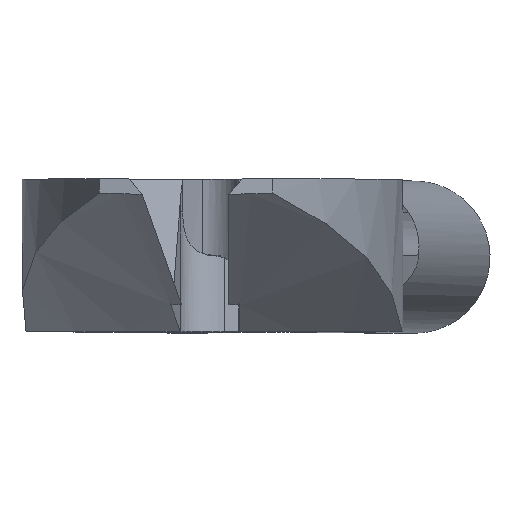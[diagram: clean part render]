
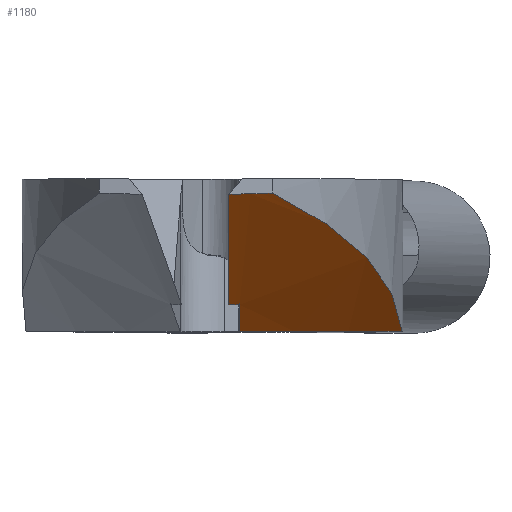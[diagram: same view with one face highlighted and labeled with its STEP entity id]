
A CAD part, top view. The second image highlights one B-rep face of the part: STEP entity #1180.
In plain terms, the highlighted cylindrical face has radius 45 mm (diameter 90 mm), a partial arc.
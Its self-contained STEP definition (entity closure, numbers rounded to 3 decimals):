
#103=CIRCLE('',#1302,45.);
#160=FACE_OUTER_BOUND('',#233,.T.);
#233=EDGE_LOOP('',(#1033,#1034,#1035,#1036,#1037,#1038));
#272=ELLIPSE('',#1304,106.479,45.);
#273=ELLIPSE('',#1305,49.652,45.);
#348=LINE('',#2193,#440);
#357=LINE('',#2227,#449);
#440=VECTOR('',#1602,10.);
#449=VECTOR('',#1627,10.);
#473=B_SPLINE_CURVE_WITH_KNOTS('',3,(#2215,#2216,#2217,#2218,#2219,#2220,
#2221,#2222,#2223,#2224),.UNSPECIFIED.,.F.,.F.,(4,2,2,2,4),(2.865,
2.938,3.521,4.103,4.57),
 .UNSPECIFIED.);
#574=VERTEX_POINT('',#2190);
#575=VERTEX_POINT('',#2192);
#579=VERTEX_POINT('',#2208);
#580=VERTEX_POINT('',#2212);
#581=VERTEX_POINT('',#2214);
#582=VERTEX_POINT('',#2225);
#732=EDGE_CURVE('',#574,#575,#348,.T.);
#742=EDGE_CURVE('',#579,#575,#103,.T.);
#743=EDGE_CURVE('',#580,#574,#272,.T.);
#744=EDGE_CURVE('',#581,#580,#473,.T.);
#745=EDGE_CURVE('',#582,#581,#273,.T.);
#746=EDGE_CURVE('',#579,#582,#357,.T.);
#1033=ORIENTED_EDGE('',*,*,#742,.T.);
#1034=ORIENTED_EDGE('',*,*,#732,.F.);
#1035=ORIENTED_EDGE('',*,*,#743,.F.);
#1036=ORIENTED_EDGE('',*,*,#744,.F.);
#1037=ORIENTED_EDGE('',*,*,#745,.F.);
#1038=ORIENTED_EDGE('',*,*,#746,.F.);
#1123=CYLINDRICAL_SURFACE('',#1303,45.);
#1180=ADVANCED_FACE('',(#160),#1123,.T.);
#1302=AXIS2_PLACEMENT_3D('',#2210,#1619,#1620);
#1303=AXIS2_PLACEMENT_3D('',#2211,#1621,#1622);
#1304=AXIS2_PLACEMENT_3D('',#2213,#1623,#1624);
#1305=AXIS2_PLACEMENT_3D('',#2226,#1625,#1626);
#1602=DIRECTION('',(0.,0.423,0.906));
#1619=DIRECTION('center_axis',(0.,0.423,0.906));
#1620=DIRECTION('ref_axis',(0.,0.906,-0.423));
#1621=DIRECTION('center_axis',(0.,0.423,0.906));
#1622=DIRECTION('ref_axis',(0.,0.906,-0.423));
#1623=DIRECTION('center_axis',(0.,-1.,0.));
#1624=DIRECTION('ref_axis',(0.,0.,-1.));
#1625=DIRECTION('center_axis',(0.,0.,1.));
#1626=DIRECTION('ref_axis',(0.,1.,0.));
#1627=DIRECTION('',(0.,0.423,0.906));
#2190=CARTESIAN_POINT('',(0.5,0.,18.493));
#2192=CARTESIAN_POINT('',(0.5,1.226,21.123));
#2193=CARTESIAN_POINT('',(0.5,0.003,18.499));
#2208=CARTESIAN_POINT('',(0.,1.224,21.125));
#2210=CARTESIAN_POINT('Origin',(0.,42.008,2.107));
#2211=CARTESIAN_POINT('Origin',(0.,40.784,
-0.518));
#2212=CARTESIAN_POINT('',(7.977,0.,16.813));
#2213=CARTESIAN_POINT('Origin',(0.,0.,-87.979));
#2214=CARTESIAN_POINT('',(2.,6.344,32.));
#2215=CARTESIAN_POINT('Ctrl Pts',(2.,6.344,32.));
#2216=CARTESIAN_POINT('Ctrl Pts',(2.155,6.267,31.819));
#2217=CARTESIAN_POINT('Ctrl Pts',(2.308,6.19,31.635));
#2218=CARTESIAN_POINT('Ctrl Pts',(3.666,5.487,29.951));
#2219=CARTESIAN_POINT('Ctrl Pts',(4.71,4.833,28.298));
#2220=CARTESIAN_POINT('Ctrl Pts',(6.375,3.441,24.825));
#2221=CARTESIAN_POINT('Ctrl Pts',(6.999,2.702,23.002));
#2222=CARTESIAN_POINT('Ctrl Pts',(7.73,1.301,19.711));
#2223=CARTESIAN_POINT('Ctrl Pts',(7.917,0.655,18.243));
#2224=CARTESIAN_POINT('Ctrl Pts',(7.977,0.,
16.813));
#2225=CARTESIAN_POINT('',(0.,6.295,32.));
#2226=CARTESIAN_POINT('Origin',(0.,55.947,32.));
#2227=CARTESIAN_POINT('',(0.,4.06,27.207));
